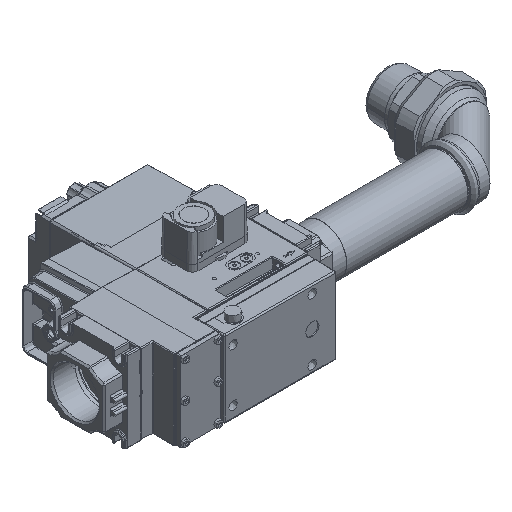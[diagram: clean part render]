
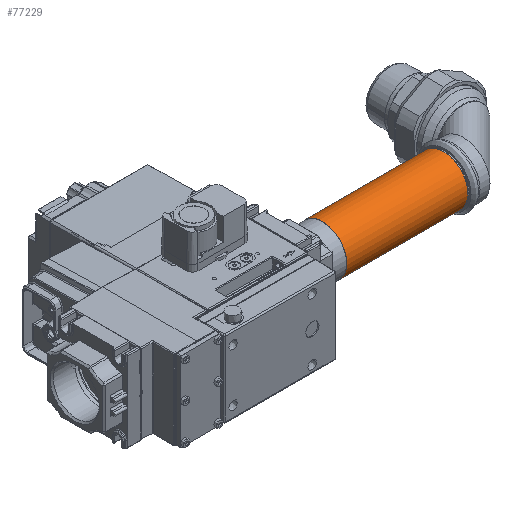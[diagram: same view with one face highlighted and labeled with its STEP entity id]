
A CAD part, isometric view. The second image highlights one B-rep face of the part: STEP entity #77229.
In plain terms, the highlighted cylindrical face has radius 30.15 mm (diameter 60.3 mm), a full revolution.
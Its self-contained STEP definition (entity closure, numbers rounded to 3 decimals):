
#381 = DIRECTION ( 'NONE',  ( 1., 0., 0. ) ) ;
#25658 = AXIS2_PLACEMENT_3D ( 'NONE', #49994, #52970, #108746 ) ;
#29710 = VERTEX_POINT ( 'NONE', #85518 ) ;
#37815 = DIRECTION ( 'NONE',  ( 0., 0., 1. ) ) ;
#39102 = ORIENTED_EDGE ( 'NONE', *, *, #91157, .T. ) ;
#44094 = EDGE_CURVE ( 'NONE', #29710, #29710, #97926, .T. ) ;
#45965 = ORIENTED_EDGE ( 'NONE', *, *, #44094, .F. ) ;
#49994 = CARTESIAN_POINT ( 'NONE',  ( 0., 0., 150. ) ) ;
#52970 = DIRECTION ( 'NONE',  ( 0., 0., 1. ) ) ;
#67088 = VERTEX_POINT ( 'NONE', #92664 ) ;
#70686 = EDGE_LOOP ( 'NONE', ( #45965 ) ) ;
#71055 = FACE_OUTER_BOUND ( 'NONE', #70686, .T. ) ;
#77229 = ADVANCED_FACE ( 'NONE', ( #128938, #71055 ), #116939, .T. ) ;
#85518 = CARTESIAN_POINT ( 'NONE',  ( 30.15, 0., 150. ) ) ;
#87403 = AXIS2_PLACEMENT_3D ( 'NONE', #125336, #129032, #381 ) ;
#91157 = EDGE_CURVE ( 'NONE', #67088, #67088, #147310, .T. ) ;
#92664 = CARTESIAN_POINT ( 'NONE',  ( 30.15, 0., 0. ) ) ;
#97926 = CIRCLE ( 'NONE', #25658, 30.15 ) ;
#104196 = DIRECTION ( 'NONE',  ( 1., 0., 0. ) ) ;
#106404 = CARTESIAN_POINT ( 'NONE',  ( 0., 0., -25. ) ) ;
#108746 = DIRECTION ( 'NONE',  ( 1., 0., 0. ) ) ;
#114622 = AXIS2_PLACEMENT_3D ( 'NONE', #106404, #37815, #104196 ) ;
#116939 = CYLINDRICAL_SURFACE ( 'NONE', #114622, 30.15 ) ;
#125336 = CARTESIAN_POINT ( 'NONE',  ( 0., 0., 0. ) ) ;
#128938 = FACE_OUTER_BOUND ( 'NONE', #131270, .T. ) ;
#129032 = DIRECTION ( 'NONE',  ( 0., 0., 1. ) ) ;
#131270 = EDGE_LOOP ( 'NONE', ( #39102 ) ) ;
#147310 = CIRCLE ( 'NONE', #87403, 30.15 ) ;
